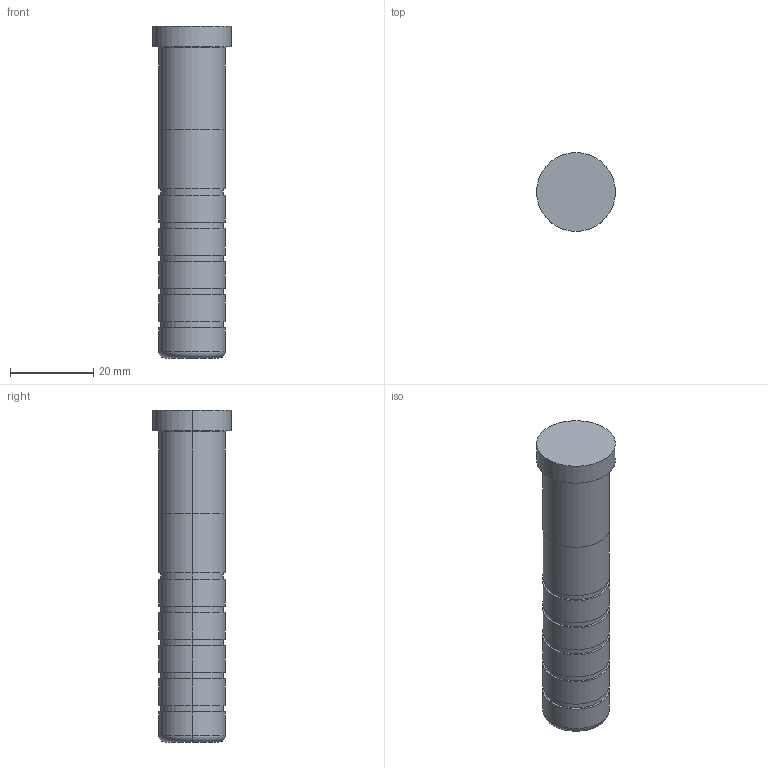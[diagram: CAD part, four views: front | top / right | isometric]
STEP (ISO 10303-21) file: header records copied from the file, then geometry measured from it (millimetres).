
FILE_DESCRIPTION(/* description */ (''),/* implementation_level */ '2;1');
FILE_NAME(/* name */ '3d_sgoh16-80_05233_r00.stp',/* time_stamp */ '2011-01-10T14:11:09+09:00',/* author */ ('MISUMI'),/* organization */ (''),/* preprocessor_version */ 'ST-DEVELOPER v11',/* originating_system */ 'UGS - NX 5.0',/* authorisation */ '');
FILE_SCHEMA (('CONFIG_CONTROL_DESIGN'));
Length unit declared in the file: millimetre
Products named in the file (1): 3d_sgoh16-80_05233_r00
Bounding box: 19 x 19 x 80 mm (x, y, z)
Volume: 16292.1 mm3; surface area: 4816.6 mm2
Topology: 1 solids, 1 shells, 43 faces, 84 edges, 54 vertices
Faces by surface type: cylinder 26, plane 13, torus 4
Entity records: 1214 total; most frequent: DIRECTION 230, CARTESIAN_POINT 182, ORIENTED_EDGE 168, AXIS2_PLACEMENT_3D 102, EDGE_CURVE 84, CIRCLE 58, EDGE_LOOP 54, VERTEX_POINT 54
